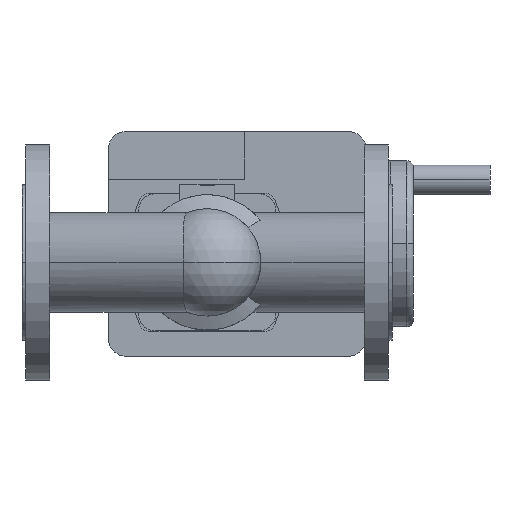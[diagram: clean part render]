
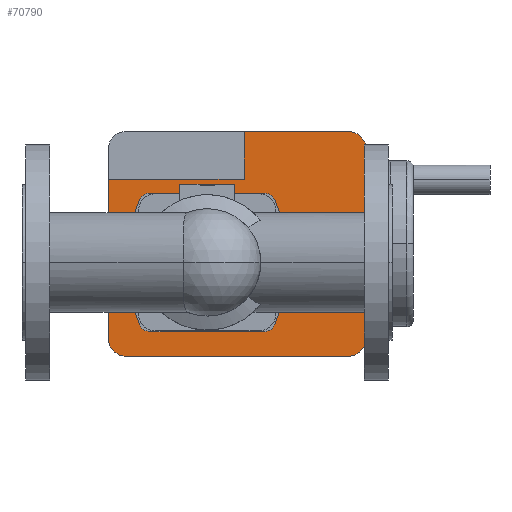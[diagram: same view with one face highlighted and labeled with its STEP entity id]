
A CAD part, front view. The second image highlights one B-rep face of the part: STEP entity #70790.
In plain terms, the highlighted planar face has unit normal (0, -1, 0).
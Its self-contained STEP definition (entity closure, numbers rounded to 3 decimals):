
#68520=CARTESIAN_POINT('',(269.5,641.5,-59.5));
#68530=VERTEX_POINT('',#68520);
#68560=CARTESIAN_POINT('',(269.5,641.5,88.5));
#68570=DIRECTION('',(0.,0.,-1.));
#68580=VECTOR('',#68570,1.);
#68590=LINE('',#68560,#68580);
#68600=CARTESIAN_POINT('',(269.5,641.5,88.5));
#68610=VERTEX_POINT('',#68600);
#68620=EDGE_CURVE('',#68610,#68530,#68590,.T.);
#68900=CARTESIAN_POINT('',(81.5,641.5,-73.5));
#68910=VERTEX_POINT('',#68900);
#68940=CARTESIAN_POINT('',(255.5,641.5,-73.5));
#68950=DIRECTION('',(-1.,0.,0.));
#68960=VECTOR('',#68950,1.);
#68970=LINE('',#68940,#68960);
#68980=CARTESIAN_POINT('',(255.5,641.5,-73.5));
#68990=VERTEX_POINT('',#68980);
#69000=EDGE_CURVE('',#68990,#68910,#68970,.T.);
#69430=CARTESIAN_POINT('',(145.,641.5,0.));
#69440=DIRECTION('',(0.,1.,0.));
#69450=DIRECTION('',(0.,0.,1.));
#69460=AXIS2_PLACEMENT_3D('',#69430,#69440,#69450);
#69470=PLANE('',#69460);
#69480=CARTESIAN_POINT('',(197.2,641.5,0.));
#69490=DIRECTION('',(0.,1.,0.));
#69500=DIRECTION('',(-0.906,0.,-0.422));
#69510=AXIS2_PLACEMENT_3D('',#69480,#69490,#69500);
#69520=CIRCLE('',#69510,116.);
#69530=CARTESIAN_POINT('',(92.058,641.5,-49.002));
#69540=VERTEX_POINT('',#69530);
#69550=CARTESIAN_POINT('',(92.058,641.5,49.002));
#69560=VERTEX_POINT('',#69550);
#69570=EDGE_CURVE('',#69540,#69560,#69520,.T.);
#69580=ORIENTED_EDGE('',*,*,#69570,.T.);
#69590=CARTESIAN_POINT('',(100.216,641.5,-45.2));
#69600=DIRECTION('',(0.,1.,0.));
#69610=DIRECTION('',(0.,0.,-1.));
#69620=AXIS2_PLACEMENT_3D('',#69590,#69600,#69610);
#69630=CIRCLE('',#69620,9.);
#69640=CARTESIAN_POINT('',(100.216,641.5,-54.2));
#69650=VERTEX_POINT('',#69640);
#69660=EDGE_CURVE('',#69650,#69540,#69630,.T.);
#69670=ORIENTED_EDGE('',*,*,#69660,.T.);
#69680=CARTESIAN_POINT('',(167.392,641.5,-54.2));
#69690=DIRECTION('',(-1.,0.,0.));
#69700=VECTOR('',#69690,1.);
#69710=LINE('',#69680,#69700);
#69720=CARTESIAN_POINT('',(189.784,641.5,-54.2));
#69730=VERTEX_POINT('',#69720);
#69740=EDGE_CURVE('',#69730,#69650,#69710,.T.);
#69750=ORIENTED_EDGE('',*,*,#69740,.T.);
#69760=CARTESIAN_POINT('',(189.784,641.5,-45.2));
#69770=DIRECTION('',(0.,1.,0.));
#69780=DIRECTION('',(0.906,0.,-0.422));
#69790=AXIS2_PLACEMENT_3D('',#69760,#69770,#69780);
#69800=CIRCLE('',#69790,9.);
#69810=CARTESIAN_POINT('',(197.942,641.5,-49.002));
#69820=VERTEX_POINT('',#69810);
#69830=EDGE_CURVE('',#69820,#69730,#69800,.T.);
#69840=ORIENTED_EDGE('',*,*,#69830,.T.);
#69850=CARTESIAN_POINT('',(92.8,641.5,0.)
);
#69860=DIRECTION('',(0.,1.,0.));
#69870=DIRECTION('',(0.906,0.,0.422));
#69880=AXIS2_PLACEMENT_3D('',#69850,#69860,#69870);
#69890=CIRCLE('',#69880,116.);
#69900=CARTESIAN_POINT('',(197.942,641.5,49.002));
#69910=VERTEX_POINT('',#69900);
#69920=EDGE_CURVE('',#69910,#69820,#69890,.T.);
#69930=ORIENTED_EDGE('',*,*,#69920,.T.);
#69940=CARTESIAN_POINT('',(189.784,641.5,45.2));
#69950=DIRECTION('',(0.,1.,0.));
#69960=DIRECTION('',(0.,0.,1.));
#69970=AXIS2_PLACEMENT_3D('',#69940,#69950,#69960);
#69980=CIRCLE('',#69970,9.);
#69990=CARTESIAN_POINT('',(189.784,641.5,54.2));
#70000=VERTEX_POINT('',#69990);
#70010=EDGE_CURVE('',#70000,#69910,#69980,.T.);
#70020=ORIENTED_EDGE('',*,*,#70010,.T.);
#70030=CARTESIAN_POINT('',(122.608,641.5,54.2));
#70040=DIRECTION('',(1.,0.,0.));
#70050=VECTOR('',#70040,1.);
#70060=LINE('',#70030,#70050);
#70070=CARTESIAN_POINT('',(100.216,641.5,54.2));
#70080=VERTEX_POINT('',#70070);
#70090=EDGE_CURVE('',#70080,#70000,#70060,.T.);
#70100=ORIENTED_EDGE('',*,*,#70090,.T.);
#70110=CARTESIAN_POINT('',(100.216,641.5,45.2));
#70120=DIRECTION('',(0.,1.,0.));
#70130=DIRECTION('',(-0.906,0.,0.422));
#70140=AXIS2_PLACEMENT_3D('',#70110,#70120,#70130);
#70150=CIRCLE('',#70140,9.);
#70160=EDGE_CURVE('',#69560,#70080,#70150,.T.);
#70170=ORIENTED_EDGE('',*,*,#70160,.T.);
#70180=EDGE_LOOP('',(#70170,#70100,#70020,#69930,#69840,#69750,#69670,
#69580));
#70190=FACE_BOUND('',#70180,.T.);
#70200=CARTESIAN_POINT('',(174.,641.5,32.5));
#70210=DIRECTION('',(0.,0.,-1.));
#70220=VECTOR('',#70210,1.);
#70230=LINE('',#70200,#70220);
#70240=CARTESIAN_POINT('',(174.,641.5,102.5));
#70250=VERTEX_POINT('',#70240);
#70260=CARTESIAN_POINT('',(174.,641.5,65.));
#70270=VERTEX_POINT('',#70260);
#70280=EDGE_CURVE('',#70250,#70270,#70230,.T.);
#70290=ORIENTED_EDGE('',*,*,#70280,.T.);
#70300=CARTESIAN_POINT('',(81.5,641.5,102.5));
#70310=DIRECTION('',(1.,0.,0.));
#70320=VECTOR('',#70310,1.);
#70330=LINE('',#70300,#70320);
#70340=CARTESIAN_POINT('',(255.5,641.5,102.5));
#70350=VERTEX_POINT('',#70340);
#70360=EDGE_CURVE('',#70250,#70350,#70330,.T.);
#70370=ORIENTED_EDGE('',*,*,#70360,.F.);
#70380=CARTESIAN_POINT('',(255.5,641.5,88.5));
#70390=DIRECTION('',(0.,1.,0.));
#70400=DIRECTION('',(0.,0.,1.));
#70410=AXIS2_PLACEMENT_3D('',#70380,#70390,#70400);
#70420=CIRCLE('',#70410,14.);
#70430=EDGE_CURVE('',#70350,#68610,#70420,.T.);
#70440=ORIENTED_EDGE('',*,*,#70430,.F.);
#70450=ORIENTED_EDGE('',*,*,#68620,.F.);
#70460=CARTESIAN_POINT('',(255.5,641.5,-59.5));
#70470=DIRECTION('',(0.,1.,0.));
#70480=DIRECTION('',(1.,0.,0.));
#70490=AXIS2_PLACEMENT_3D('',#70460,#70470,#70480);
#70500=CIRCLE('',#70490,14.);
#70510=EDGE_CURVE('',#68530,#68990,#70500,.T.);
#70520=ORIENTED_EDGE('',*,*,#70510,.F.);
#70530=ORIENTED_EDGE('',*,*,#69000,.F.);
#70540=CARTESIAN_POINT('',(81.5,641.5,-59.5));
#70550=DIRECTION('',(0.,1.,0.));
#70560=DIRECTION('',(0.,0.,-1.));
#70570=AXIS2_PLACEMENT_3D('',#70540,#70550,#70560);
#70580=CIRCLE('',#70570,14.);
#70590=CARTESIAN_POINT('',(67.5,641.5,-59.5));
#70600=VERTEX_POINT('',#70590);
#70610=EDGE_CURVE('',#68910,#70600,#70580,.T.);
#70620=ORIENTED_EDGE('',*,*,#70610,.F.);
#70630=CARTESIAN_POINT('',(67.5,641.5,-59.5));
#70640=DIRECTION('',(0.,0.,1.));
#70650=VECTOR('',#70640,1.);
#70660=LINE('',#70630,#70650);
#70670=CARTESIAN_POINT('',(67.5,641.5,65.));
#70680=VERTEX_POINT('',#70670);
#70690=EDGE_CURVE('',#70600,#70680,#70660,.T.);
#70700=ORIENTED_EDGE('',*,*,#70690,.F.);
#70710=CARTESIAN_POINT('',(105.75,641.5,65.));
#70720=DIRECTION('',(-1.,0.,0.));
#70730=VECTOR('',#70720,1.);
#70740=LINE('',#70710,#70730);
#70750=EDGE_CURVE('',#70270,#70680,#70740,.T.);
#70760=ORIENTED_EDGE('',*,*,#70750,.T.);
#70770=EDGE_LOOP('',(#70760,#70700,#70620,#70530,#70520,#70450,#70440,
#70370,#70290));
#70780=FACE_OUTER_BOUND('',#70770,.T.);
#70790=ADVANCED_FACE('',(#70190,#70780),#69470,.F.);
